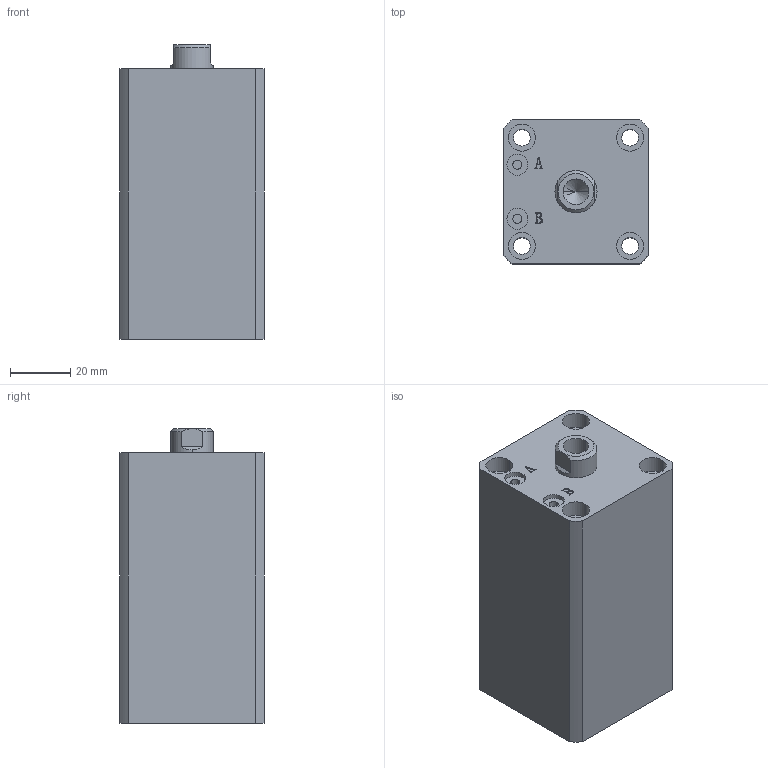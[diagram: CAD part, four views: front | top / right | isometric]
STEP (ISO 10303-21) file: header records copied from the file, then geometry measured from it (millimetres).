
FILE_DESCRIPTION (( 'STEP AP203' ), '1' );
FILE_NAME ('HTB-SDMA25-45N.STEP', '2019-10-07T10:53:59', ( '微软用户' ), ( '微软中国' ), 'SwSTEP 2.0', 'SolidWorks 2012', '' );
FILE_SCHEMA (( 'CONFIG_CONTROL_DESIGN' ));
Length unit declared in the file: millimetre
Products named in the file (3): HTB-SDMA25-45N; HTB-SDMA25-45N活塞杆; HTB-SDMA25-45掛极
Assembly tree (2 placements, depth 2):
  HTB-SDMA25-45N
    HTB-SDMA25-45掛极
    HTB-SDMA25-45N活塞杆
Bounding box: 48 x 48 x 98 mm (x, y, z)
Volume: 180050 mm3; surface area: 40416.5 mm2
Topology: 2 solids, 2 shells, 137 faces, 329 edges, 215 vertices
Faces by surface type: plane 65, cylinder 46, bspline 16, torus 6, cone 4
Entity records: 5072 total; most frequent: CARTESIAN_POINT 1592, ORIENTED_EDGE 654, DIRECTION 645, EDGE_CURVE 327, AXIS2_PLACEMENT_3D 232, VERTEX_POINT 215, LINE 181, VECTOR 181
